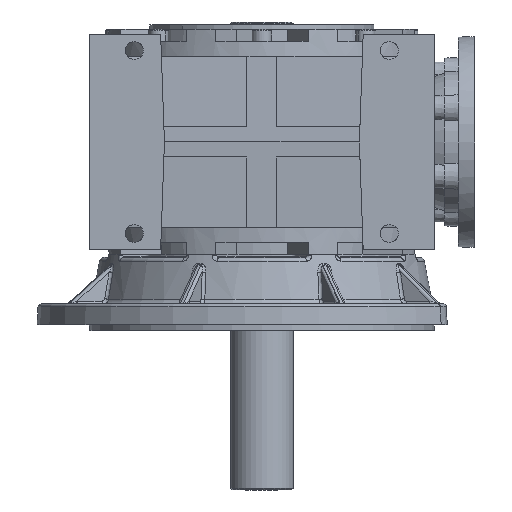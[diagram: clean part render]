
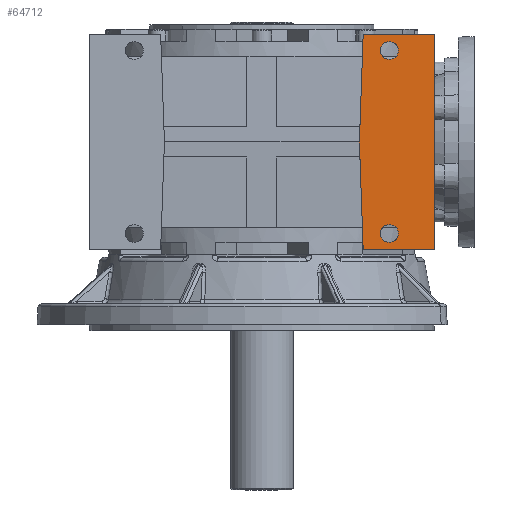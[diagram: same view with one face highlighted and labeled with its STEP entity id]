
A CAD part, front view. The second image highlights one B-rep face of the part: STEP entity #64712.
In plain terms, the highlighted planar face has unit normal (0, -1, 0).
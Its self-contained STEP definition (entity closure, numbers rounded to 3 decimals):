
#483 = CARTESIAN_POINT ( 'NONE',  ( 85., -165., -61. ) ) ;
#1062 = CARTESIAN_POINT ( 'NONE',  ( 85., -165., 61. ) ) ;
#1970 = ORIENTED_EDGE ( 'NONE', *, *, #75306, .T. ) ;
#3798 = FACE_OUTER_BOUND ( 'NONE', #34472, .T. ) ;
#5619 = VERTEX_POINT ( 'NONE', #78722 ) ;
#6955 = DIRECTION ( 'NONE',  ( 1., 0., 0. ) ) ;
#7113 = CARTESIAN_POINT ( 'NONE',  ( 85., -165., -61. ) ) ;
#7494 = EDGE_CURVE ( 'NONE', #5619, #55150, #42459, .T. ) ;
#8002 = DIRECTION ( 'NONE',  ( 0., -1., 0. ) ) ;
#8103 = EDGE_CURVE ( 'NONE', #55150, #5619, #66227, .T. ) ;
#9116 = CARTESIAN_POINT ( 'NONE',  ( 67.514, -165., 72. ) ) ;
#11645 = FACE_BOUND ( 'NONE', #63497, .T. ) ;
#11756 = CIRCLE ( 'NONE', #48628, 6. ) ;
#11908 = DIRECTION ( 'NONE',  ( 0., -1., 0. ) ) ;
#12361 = VECTOR ( 'NONE', #6955, 1000. ) ;
#12644 = EDGE_CURVE ( 'NONE', #21740, #52692, #26819, .T. ) ;
#14136 = LINE ( 'NONE', #15492, #89798 ) ;
#15492 = CARTESIAN_POINT ( 'NONE',  ( 100., -165., -72. ) ) ;
#16670 = ORIENTED_EDGE ( 'NONE', *, *, #8103, .F. ) ;
#16690 = EDGE_CURVE ( 'NONE', #42510, #77208, #88774, .T. ) ;
#17166 = ORIENTED_EDGE ( 'NONE', *, *, #28317, .F. ) ;
#18318 = EDGE_CURVE ( 'NONE', #21740, #64911, #55065, .T. ) ;
#18513 = VERTEX_POINT ( 'NONE', #42995 ) ;
#19926 = CARTESIAN_POINT ( 'NONE',  ( -115., -165., 72. ) ) ;
#20432 = AXIS2_PLACEMENT_3D ( 'NONE', #1062, #8002, #36645 ) ;
#21740 = VERTEX_POINT ( 'NONE', #9116 ) ;
#22044 = CARTESIAN_POINT ( 'NONE',  ( 115., -165., -72. ) ) ;
#23441 = VECTOR ( 'NONE', #40224, 1000. ) ;
#25340 = DIRECTION ( 'NONE',  ( 1., 0., 0. ) ) ;
#25422 = CARTESIAN_POINT ( 'NONE',  ( 115., -165., 72. ) ) ;
#25525 = DIRECTION ( 'NONE',  ( 0., -1., 0. ) ) ;
#26236 = ORIENTED_EDGE ( 'NONE', *, *, #38563, .F. ) ;
#26282 = VECTOR ( 'NONE', #83202, 1000. ) ;
#26819 = LINE ( 'NONE', #67517, #23441 ) ;
#27470 = DIRECTION ( 'NONE',  ( -0.035, 0., 0.999 ) ) ;
#28317 = EDGE_CURVE ( 'NONE', #79301, #18513, #14136, .T. ) ;
#30277 = DIRECTION ( 'NONE',  ( -1., 0., 0. ) ) ;
#32506 = CARTESIAN_POINT ( 'NONE',  ( 79., -165., -61. ) ) ;
#33669 = LINE ( 'NONE', #55404, #26282 ) ;
#34472 = EDGE_LOOP ( 'NONE', ( #1970, #35674, #59850, #59389, #17166 ) ) ;
#35674 = ORIENTED_EDGE ( 'NONE', *, *, #18318, .F. ) ;
#36645 = DIRECTION ( 'NONE',  ( 1., 0., 0. ) ) ;
#38563 = EDGE_CURVE ( 'NONE', #77208, #42510, #11756, .T. ) ;
#38785 = CARTESIAN_POINT ( 'NONE',  ( 65., -165., 0. ) ) ;
#39381 = FACE_BOUND ( 'NONE', #41805, .T. ) ;
#40224 = DIRECTION ( 'NONE',  ( -0.035, 0., -0.999 ) ) ;
#40814 = EDGE_CURVE ( 'NONE', #18513, #52692, #82559, .T. ) ;
#41805 = EDGE_LOOP ( 'NONE', ( #47276, #26236 ) ) ;
#42459 = CIRCLE ( 'NONE', #54308, 6. ) ;
#42510 = VERTEX_POINT ( 'NONE', #44755 ) ;
#42995 = CARTESIAN_POINT ( 'NONE',  ( 67.514, -165., -72. ) ) ;
#44755 = CARTESIAN_POINT ( 'NONE',  ( 91., -165., -61. ) ) ;
#47276 = ORIENTED_EDGE ( 'NONE', *, *, #16690, .F. ) ;
#48628 = AXIS2_PLACEMENT_3D ( 'NONE', #7113, #49634, #85676 ) ;
#49634 = DIRECTION ( 'NONE',  ( 0., -1., 0. ) ) ;
#52692 = VERTEX_POINT ( 'NONE', #38785 ) ;
#54308 = AXIS2_PLACEMENT_3D ( 'NONE', #81767, #11908, #25340 ) ;
#55065 = LINE ( 'NONE', #19926, #12361 ) ;
#55150 = VERTEX_POINT ( 'NONE', #71549 ) ;
#55404 = CARTESIAN_POINT ( 'NONE',  ( 115., -165., -78. ) ) ;
#57787 = DIRECTION ( 'NONE',  ( 1., 0., 0. ) ) ;
#59389 = ORIENTED_EDGE ( 'NONE', *, *, #40814, .F. ) ;
#59850 = ORIENTED_EDGE ( 'NONE', *, *, #12644, .T. ) ;
#61131 = CARTESIAN_POINT ( 'NONE',  ( -115., -165., -78. ) ) ;
#63497 = EDGE_LOOP ( 'NONE', ( #16670, #73226 ) ) ;
#64712 = ADVANCED_FACE ( 'NONE', ( #11645, #39381, #3798 ), #88879, .T. ) ;
#64911 = VERTEX_POINT ( 'NONE', #25422 ) ;
#66227 = CIRCLE ( 'NONE', #20432, 6. ) ;
#67517 = CARTESIAN_POINT ( 'NONE',  ( 65., -165., 0. ) ) ;
#71549 = CARTESIAN_POINT ( 'NONE',  ( 91., -165., 61. ) ) ;
#73226 = ORIENTED_EDGE ( 'NONE', *, *, #7494, .F. ) ;
#75306 = EDGE_CURVE ( 'NONE', #79301, #64911, #33669, .T. ) ;
#75497 = AXIS2_PLACEMENT_3D ( 'NONE', #483, #77247, #57787 ) ;
#76490 = CARTESIAN_POINT ( 'NONE',  ( 65., -165., 0. ) ) ;
#77208 = VERTEX_POINT ( 'NONE', #32506 ) ;
#77247 = DIRECTION ( 'NONE',  ( 0., -1., 0. ) ) ;
#78722 = CARTESIAN_POINT ( 'NONE',  ( 79., -165., 61. ) ) ;
#79301 = VERTEX_POINT ( 'NONE', #22044 ) ;
#81767 = CARTESIAN_POINT ( 'NONE',  ( 85., -165., 61. ) ) ;
#82559 = LINE ( 'NONE', #76490, #82802 ) ;
#82802 = VECTOR ( 'NONE', #27470, 1000. ) ;
#83202 = DIRECTION ( 'NONE',  ( 0., 0., 1. ) ) ;
#85676 = DIRECTION ( 'NONE',  ( 1., 0., 0. ) ) ;
#88774 = CIRCLE ( 'NONE', #75497, 6. ) ;
#88879 = PLANE ( 'NONE',  #89972 ) ;
#89339 = DIRECTION ( 'NONE',  ( 1., 0., 0. ) ) ;
#89798 = VECTOR ( 'NONE', #30277, 1000. ) ;
#89972 = AXIS2_PLACEMENT_3D ( 'NONE', #61131, #25525, #89339 ) ;
